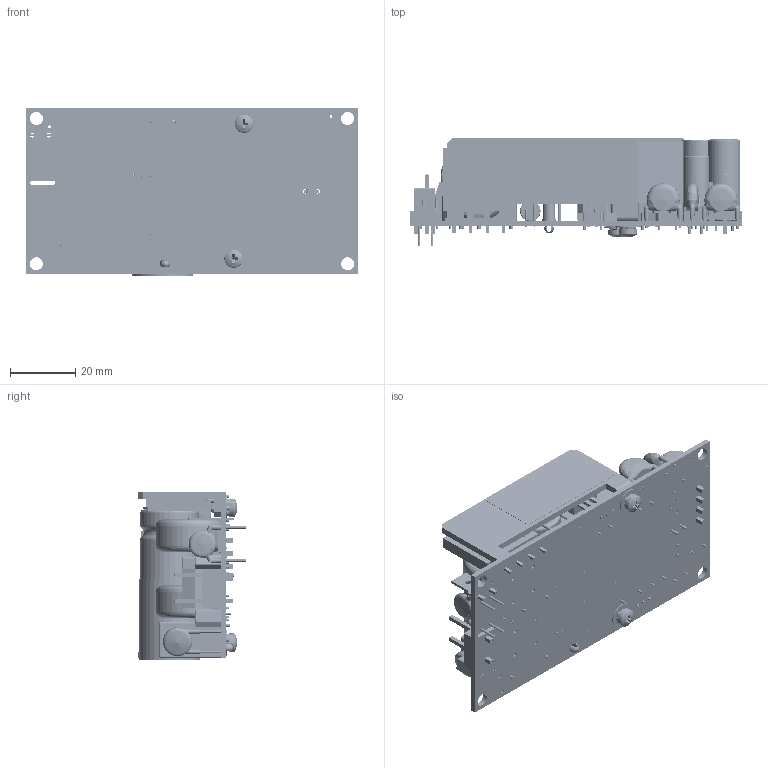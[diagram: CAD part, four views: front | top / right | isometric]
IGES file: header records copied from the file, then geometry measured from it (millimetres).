
Start section: SolidWorks IGES file using analytic representation for surfaces
Global section: file name: G:\USER\Common for ENG DEPT\TO Jayesh Patel\ECS130\SOLID WORK\ECS130-A.IGS; native system: SolidWorks 2012; preprocessor: SolidWorks 2012; author: jpatel; date: 140327.082207; units: inch
Bounding box: 101.6 x 33.02 x 51.58 mm (x, y, z)
Surface area: 85823.7 mm2 (no closed solid volume)
Topology: 0 solids, 0 shells, 2635 faces, 25932 edges, 25844 vertices
Faces by surface type: bspline 1600, revolution 1035
